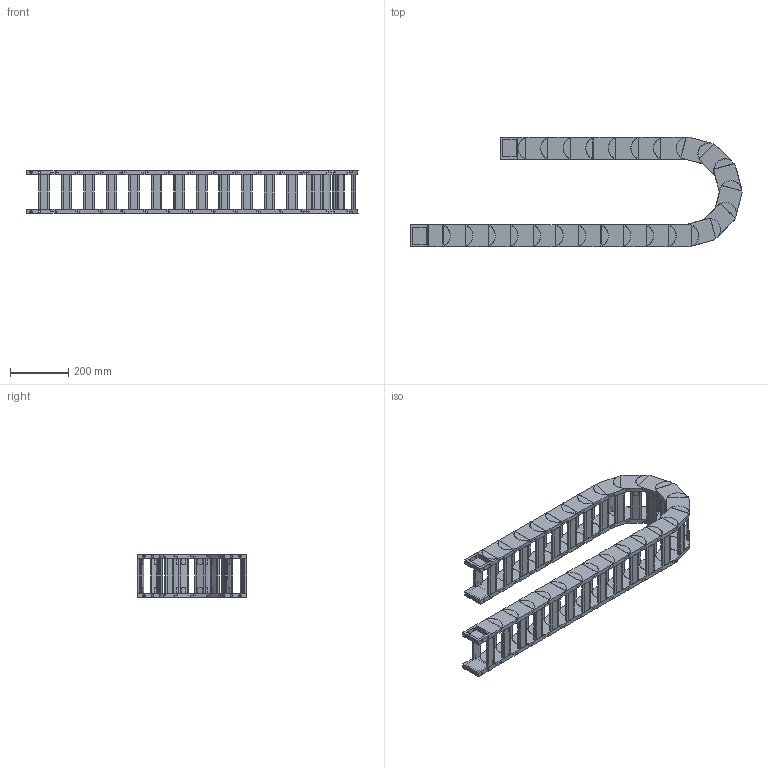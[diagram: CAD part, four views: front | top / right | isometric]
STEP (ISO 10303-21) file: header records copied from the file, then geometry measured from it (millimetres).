
FILE_DESCRIPTION((''),'2;1');
FILE_NAME('HD55-R150-ZPT_ASM','2022-06-17T17:24:00',('admin'),(''),'CREO PARAMETRIC BY PTC INC, 2021164','CREO PARAMETRIC BY PTC INC, 2021164','');
FILE_SCHEMA(('CONFIG_CONTROL_DESIGN','GEOMETRIC_VALIDATION_PROPERTIES_MIM'));
Length unit declared in the file: millimetre
Products named in the file (6): HD-55; 55-500001; HD55_ASM; H55-T1; H55-T2; HD55-R150-ZPT_ASM
Assembly tree (30 placements, depth 3):
  HD55-R150-ZPT_ASM
    HD55_ASM  x24
      HD-55
      55-500001
    H55-T1
    H55-T2
    55-500001  x2
Bounding box: 1139.56 x 376 x 149.6 mm (x, y, z)
Volume: 6398128.7 mm3; surface area: 1986721.1 mm2
Topology: 104 solids, 104 shells, 1726 faces, 4430 edges, 3020 vertices
Faces by surface type: plane 1424, cylinder 302
Entity records: 8783 total; most frequent: CARTESIAN_POINT 1296, DIRECTION 1258, ORIENTED_EDGE 1172, EDGE_CURVE 586, AXIS2_PLACEMENT_3D 420, VECTOR 418, LINE 418, VERTEX_POINT 396
